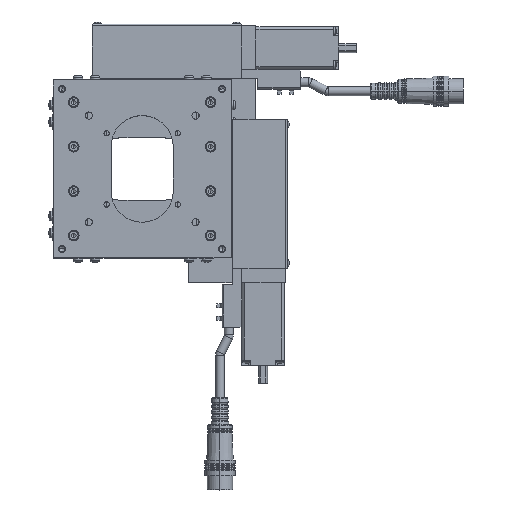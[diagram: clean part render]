
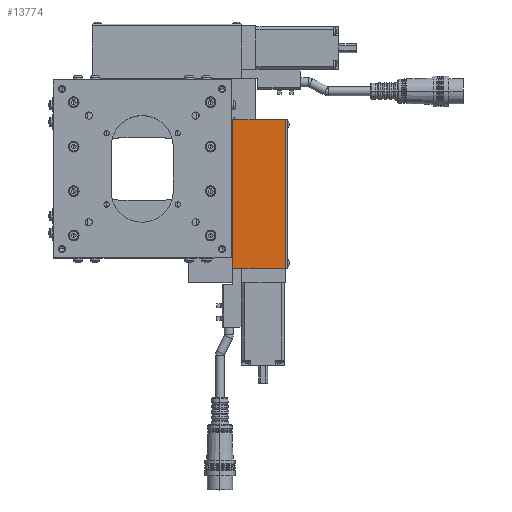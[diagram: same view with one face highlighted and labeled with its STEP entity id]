
A CAD part, top view. The second image highlights one B-rep face of the part: STEP entity #13774.
In plain terms, the highlighted planar face has unit normal (0, 0, 1).
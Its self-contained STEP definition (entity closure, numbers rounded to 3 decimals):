
#4133 = VECTOR ( 'NONE', #53053, 1000. ) ;
#6097 = CARTESIAN_POINT ( 'NONE',  ( -305.444, -52.559, -86.867 ) ) ;
#6665 = DIRECTION ( 'NONE',  ( 1., 0., 0. ) ) ;
#6893 = CARTESIAN_POINT ( 'NONE',  ( -221.444, -23.059, -86.867 ) ) ;
#6973 = VERTEX_POINT ( 'NONE', #22216 ) ;
#13774 = ADVANCED_FACE ( 'NONE', ( #22772 ), #73049, .T. ) ;
#15184 = AXIS2_PLACEMENT_3D ( 'NONE', #58607, #35771, #88804 ) ;
#15829 = EDGE_LOOP ( 'NONE', ( #81786, #43243, #86175, #41834 ) ) ;
#18512 = LINE ( 'NONE', #6097, #4133 ) ;
#19656 = LINE ( 'NONE', #6893, #37649 ) ;
#22216 = CARTESIAN_POINT ( 'NONE',  ( -305.444, -23.059, -86.867 ) ) ;
#22772 = FACE_OUTER_BOUND ( 'NONE', #15829, .T. ) ;
#22899 = EDGE_CURVE ( 'NONE', #71505, #50940, #18512, .T. ) ;
#33781 = VECTOR ( 'NONE', #6665, 1000. ) ;
#35771 = DIRECTION ( 'NONE',  ( 0., 0., 1. ) ) ;
#36127 = EDGE_CURVE ( 'NONE', #89073, #50940, #19656, .T. ) ;
#37649 = VECTOR ( 'NONE', #44434, 1000. ) ;
#39199 = VECTOR ( 'NONE', #93174, 1000. ) ;
#39510 = CARTESIAN_POINT ( 'NONE',  ( -305.444, -23.059, -86.867 ) ) ;
#41834 = ORIENTED_EDGE ( 'NONE', *, *, #80577, .F. ) ;
#43243 = ORIENTED_EDGE ( 'NONE', *, *, #22899, .T. ) ;
#44434 = DIRECTION ( 'NONE',  ( 0., -1., 0. ) ) ;
#50940 = VERTEX_POINT ( 'NONE', #51429 ) ;
#51429 = CARTESIAN_POINT ( 'NONE',  ( -221.444, -52.559, -86.867 ) ) ;
#53010 = LINE ( 'NONE', #98191, #33781 ) ;
#53053 = DIRECTION ( 'NONE',  ( 1., 0., 0. ) ) ;
#58607 = CARTESIAN_POINT ( 'NONE',  ( -305.444, -23.059, -86.867 ) ) ;
#71505 = VERTEX_POINT ( 'NONE', #94577 ) ;
#73049 = PLANE ( 'NONE',  #15184 ) ;
#77646 = CARTESIAN_POINT ( 'NONE',  ( -221.444, -23.059, -86.867 ) ) ;
#80577 = EDGE_CURVE ( 'NONE', #6973, #89073, #53010, .T. ) ;
#81786 = ORIENTED_EDGE ( 'NONE', *, *, #83628, .T. ) ;
#83628 = EDGE_CURVE ( 'NONE', #6973, #71505, #92042, .T. ) ;
#86175 = ORIENTED_EDGE ( 'NONE', *, *, #36127, .F. ) ;
#88804 = DIRECTION ( 'NONE',  ( 1., 0., 0. ) ) ;
#89073 = VERTEX_POINT ( 'NONE', #77646 ) ;
#92042 = LINE ( 'NONE', #39510, #39199 ) ;
#93174 = DIRECTION ( 'NONE',  ( 0., -1., 0. ) ) ;
#94577 = CARTESIAN_POINT ( 'NONE',  ( -305.444, -52.559, -86.867 ) ) ;
#98191 = CARTESIAN_POINT ( 'NONE',  ( -305.444, -23.059, -86.867 ) ) ;
